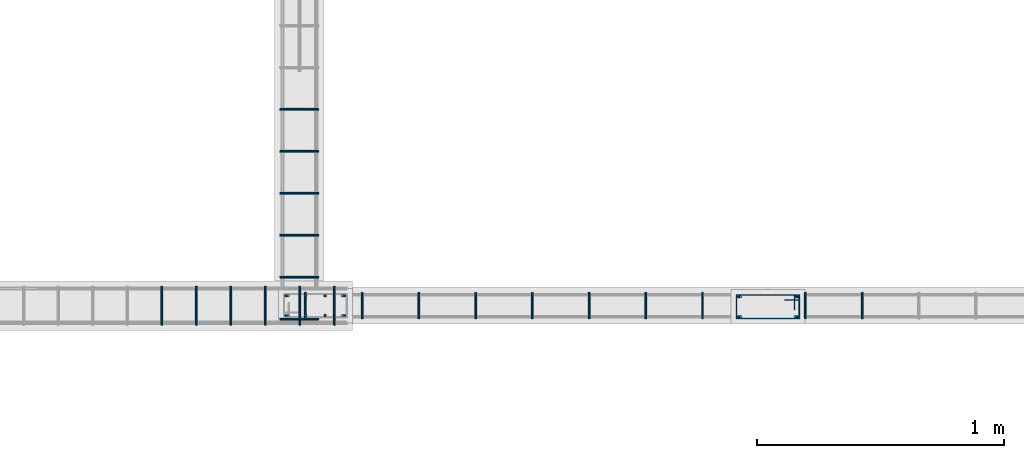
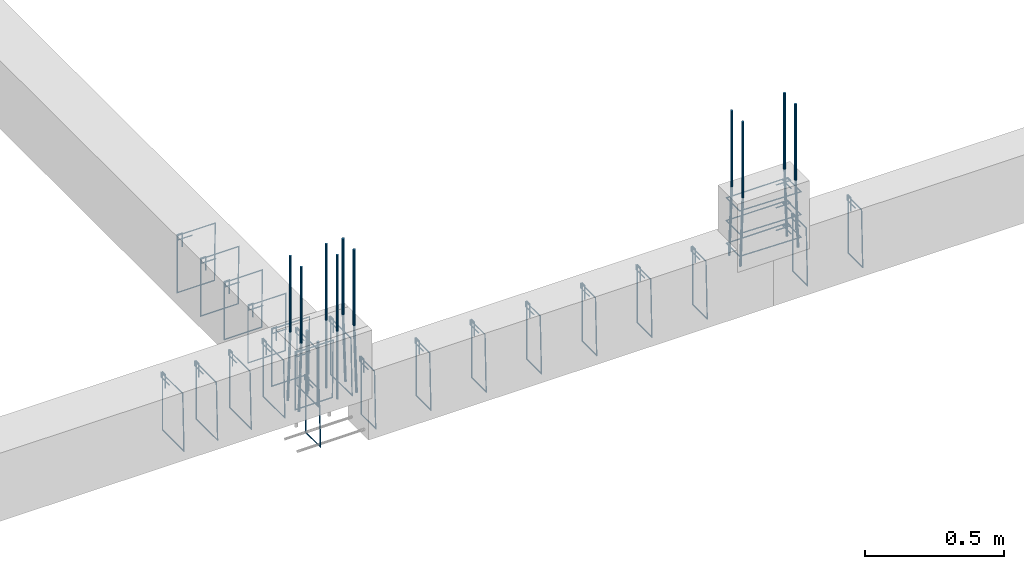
# One storey, part 92 of 150: 37 reinforcing bars.
"""IFC4 building model written with IfcOpenShell, lengths in centimetres."""

from ifc_helpers import new_model, entity, si_unit, derived_unit, frame, origin_with_axes, place, context, project, spatial, source, transform, mapped, element, save


model = new_model("IFC4")

# Units and contexts
model_context = context("Model", 3, precision=1e-05, world=origin_with_axes(), identifier="Body")
ifc_project = project(units=[si_unit("LENGTHUNIT", "METRE", prefix="CENTI"), si_unit("VOLUMEUNIT", "CUBIC_METRE"), si_unit("AREAUNIT", "SQUARE_METRE"), si_unit("POWERUNIT", "WATT"), si_unit("LUMINOUSFLUXUNIT", "LUMEN"), si_unit("ELECTRICCURRENTUNIT", "AMPERE"), si_unit("PRESSUREUNIT", "PASCAL", prefix="KILO"), si_unit("MASSUNIT", "GRAM", prefix="KILO"), si_unit("PLANEANGLEUNIT", "RADIAN"), derived_unit("VOLUMETRICFLOWRATEUNIT", [(si_unit("LENGTHUNIT", "METRE"), 3), (si_unit("TIMEUNIT", "SECOND"), -1)])], contexts=[model_context])

# Site, building, storey
site_placement = place(None, frame((-4000.0, 0.0, 0.0), z_axis=(0.0, 0.0, 1.0), x_axis=(1.0, 0.0, 0.0)))
site = spatial("IfcSite", under=ifc_project, at=site_placement, Name="PADRÃO")
building_placement = place(site_placement, frame((0.0, 0.0, -14.0)))
building = spatial("IfcBuilding", under=site, at=building_placement, Name="CRECHE PRÉ-ESCOLA TIPO 2")
placement = place(building_placement, origin_with_axes())
storey_placement = place(placement, frame((0.0, 0.0, 30.0), z_axis=(0.0, 0.0, 1.0), x_axis=(1.0, 0.0, 0.0)))
storey = spatial("IfcBuildingStorey", under=building, at=storey_placement, Name="VIGA BALDRAME", CompositionType="ELEMENT", Elevation=16.0)

# Reinforcing bars
shared_shape_1 = source(origin_with_axes(), model_context, "Body", "AdvancedSweptSolid", [
    entity("IfcSweptDiskSolid", entity("IfcCompositeCurve", [entity("IfcCompositeCurveSegment", "CONTINUOUS", True, entity("IfcPolyline", [entity("IfcCartesianPoint", [4.25, 21.75, 0.0]), entity("IfcCartesianPoint", [4.25, 27.75, 0.0])])), entity("IfcCompositeCurveSegment", "CONTINUOUS", True, entity("IfcPolyline", [entity("IfcCartesianPoint", [4.25, 27.75, 0.0]), entity("IfcCartesianPoint", [2.25, 27.75, 0.0])])), entity("IfcCompositeCurveSegment", "CONTINUOUS", True, entity("IfcPolyline", [entity("IfcCartesianPoint", [2.25, 27.75, 0.0]), entity("IfcCartesianPoint", [2.25, 2.25, 0.0])])), entity("IfcCompositeCurveSegment", "CONTINUOUS", True, entity("IfcPolyline", [entity("IfcCartesianPoint", [2.25, 2.25, 0.0]), entity("IfcCartesianPoint", [11.75, 2.25, 0.0])])), entity("IfcCompositeCurveSegment", "CONTINUOUS", True, entity("IfcPolyline", [entity("IfcCartesianPoint", [11.75, 2.25, 0.0]), entity("IfcCartesianPoint", [11.75, 27.75, -0.5])])), entity("IfcCompositeCurveSegment", "CONTINUOUS", True, entity("IfcPolyline", [entity("IfcCartesianPoint", [11.75, 27.75, -0.5]), entity("IfcCartesianPoint", [2.25, 27.75, -0.5])])), entity("IfcCompositeCurveSegment", "CONTINUOUS", True, entity("IfcPolyline", [entity("IfcCartesianPoint", [2.25, 27.75, -0.5]), entity("IfcCartesianPoint", [2.25, 25.75, -0.5])])), entity("IfcCompositeCurveSegment", "CONTINUOUS", True, entity("IfcPolyline", [entity("IfcCartesianPoint", [2.25, 25.75, -0.5]), entity("IfcCartesianPoint", [8.25, 25.75, -0.5])]))], False), 0.25),
])
for number, where, z_axis, x_axis, name in (
    (1, (3541.0, 521.52, -5.0), (0.0, 0.0, 1.0), (0.0, -1.0, 0.0), "P141 - Estribo"),
    (2, (3541.0, 521.52, -15.0), (0.0, 0.0, 1.0), (0.0, -1.0, 0.0), "P141 - Estribo"),
    (3, (3541.0, 521.52, -25.0), (0.0, 0.0, 1.0), (0.0, -1.0, 0.0), "P141 - Estribo"),
):
    element("IfcReinforcingBar", number, at=place(storey_placement, frame(where, z_axis=z_axis, x_axis=x_axis)), inside=storey, Name=name, BarLength=0.0, CrossSectionArea=1.9634954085e-05, NominalDiameter=0.5, PredefinedType="MAIN", context=model_context, shape_type="MappedRepresentation", body=[
        mapped(shared_shape_1, transform((0.0, 0.0, 0.0), scale=1.0)),
    ])
shared_shape_2 = source(origin_with_axes(), model_context, "Body", "AdvancedSweptSolid", [
    entity("IfcSweptDiskSolid", entity("IfcCompositeCurve", [entity("IfcCompositeCurveSegment", "CONTINUOUS", True, entity("IfcPolyline", [entity("IfcCartesianPoint", [2.0, -6.0, 0.0]), entity("IfcCartesianPoint", [2.0, 0.0, 0.0])])), entity("IfcCompositeCurveSegment", "CONTINUOUS", True, entity("IfcPolyline", [entity("IfcCartesianPoint", [2.0, 0.0, 0.0]), entity("IfcCartesianPoint", [0.0, 0.0, 0.0])])), entity("IfcCompositeCurveSegment", "CONTINUOUS", True, entity("IfcPolyline", [entity("IfcCartesianPoint", [0.0, 0.0, 0.0]), entity("IfcCartesianPoint", [0.0, -25.5, 0.0])])), entity("IfcCompositeCurveSegment", "CONTINUOUS", True, entity("IfcPolyline", [entity("IfcCartesianPoint", [0.0, -25.5, 0.0]), entity("IfcCartesianPoint", [15.5, -25.5, 0.0])])), entity("IfcCompositeCurveSegment", "CONTINUOUS", True, entity("IfcPolyline", [entity("IfcCartesianPoint", [15.5, -25.5, 0.0]), entity("IfcCartesianPoint", [15.5, 0.0, 0.5])])), entity("IfcCompositeCurveSegment", "CONTINUOUS", True, entity("IfcPolyline", [entity("IfcCartesianPoint", [15.5, 0.0, 0.5]), entity("IfcCartesianPoint", [0.0, 0.0, 0.5])])), entity("IfcCompositeCurveSegment", "CONTINUOUS", True, entity("IfcPolyline", [entity("IfcCartesianPoint", [0.0, 0.0, 0.5]), entity("IfcCartesianPoint", [0.0, -2.0, 0.5])])), entity("IfcCompositeCurveSegment", "CONTINUOUS", True, entity("IfcPolyline", [entity("IfcCartesianPoint", [0.0, -2.0, 0.5]), entity("IfcCartesianPoint", [6.0, -2.0, 0.5])]))], False), 0.25),
])
for number, where, z_axis, x_axis, name in (
    (4, (3358.25, 509.795, -2.25), (0.0, -1.0, 0.0), (1.0, 0.0, 0.0), "V224 - Estribo"),
    (5, (3358.25, 526.795, -2.25), (0.0, -1.0, 0.0), (1.0, 0.0, 0.0), "V224 - Estribo"),
    (6, (3358.25, 543.795, -2.25), (0.0, -1.0, 0.0), (1.0, 0.0, 0.0), "V224 - Estribo"),
    (7, (3358.25, 560.795, -2.25), (0.0, -1.0, 0.0), (1.0, 0.0, 0.0), "V224 - Estribo"),
    (8, (3358.25, 577.795, -2.25), (0.0, -1.0, 0.0), (1.0, 0.0, 0.0), "V224 - Estribo"),
    (9, (3358.25, 594.795, -2.25), (0.0, -1.0, 0.0), (1.0, 0.0, 0.0), "V224 - Estribo"),
):
    element("IfcReinforcingBar", number, at=place(storey_placement, frame(where, z_axis=z_axis, x_axis=x_axis)), inside=storey, Name=name, BarLength=0.0, CrossSectionArea=1.9634954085e-05, NominalDiameter=0.5, PredefinedType="MAIN", context=model_context, shape_type="MappedRepresentation", body=[
        mapped(shared_shape_2, transform((0.0, 0.0, 0.0), scale=1.0)),
    ])
shared_shape_3 = source(origin_with_axes(), model_context, "Body", "AdvancedSweptSolid", [
    entity("IfcSweptDiskSolid", entity("IfcCompositeCurve", [entity("IfcCompositeCurveSegment", "CONTINUOUS", True, entity("IfcPolyline", [entity("IfcCartesianPoint", [2.0, -6.0, 0.0]), entity("IfcCartesianPoint", [2.0, 0.0, 0.0])])), entity("IfcCompositeCurveSegment", "CONTINUOUS", True, entity("IfcPolyline", [entity("IfcCartesianPoint", [2.0, 0.0, 0.0]), entity("IfcCartesianPoint", [0.0, 0.0, 0.0])])), entity("IfcCompositeCurveSegment", "CONTINUOUS", True, entity("IfcPolyline", [entity("IfcCartesianPoint", [0.0, 0.0, 0.0]), entity("IfcCartesianPoint", [0.0, -25.5, 0.0])])), entity("IfcCompositeCurveSegment", "CONTINUOUS", True, entity("IfcPolyline", [entity("IfcCartesianPoint", [0.0, -25.5, 0.0]), entity("IfcCartesianPoint", [10.5, -25.5, 0.0])])), entity("IfcCompositeCurveSegment", "CONTINUOUS", True, entity("IfcPolyline", [entity("IfcCartesianPoint", [10.5, -25.5, 0.0]), entity("IfcCartesianPoint", [10.5, 0.0, 0.5])])), entity("IfcCompositeCurveSegment", "CONTINUOUS", True, entity("IfcPolyline", [entity("IfcCartesianPoint", [10.5, 0.0, 0.5]), entity("IfcCartesianPoint", [0.0, 0.0, 0.5])])), entity("IfcCompositeCurveSegment", "CONTINUOUS", True, entity("IfcPolyline", [entity("IfcCartesianPoint", [0.0, 0.0, 0.5]), entity("IfcCartesianPoint", [0.0, -2.0, 0.5])])), entity("IfcCompositeCurveSegment", "CONTINUOUS", True, entity("IfcPolyline", [entity("IfcCartesianPoint", [0.0, -2.0, 0.5]), entity("IfcCartesianPoint", [6.0, -2.0, 0.5])]))], False), 0.25),
])
for number, where, z_axis, x_axis, name in (
    (10, (3506.75, 520.26, -22.25), (-1.0, 0.0, 0.0), (0.0, -1.0, 0.0), "V153 - Estribo"),
    (11, (3483.75, 520.26, -22.25), (-1.0, 0.0, 0.0), (0.0, -1.0, 0.0), "V153 - Estribo"),
    (12, (3460.75, 520.26, -22.25), (-1.0, 0.0, 0.0), (0.0, -1.0, 0.0), "V153 - Estribo"),
    (13, (3437.75, 520.26, -22.25), (-1.0, 0.0, 0.0), (0.0, -1.0, 0.0), "V153 - Estribo"),
    (14, (3414.75, 520.26, -22.25), (-1.0, 0.0, 0.0), (0.0, -1.0, 0.0), "V153 - Estribo"),
    (15, (3391.75, 520.26, -22.25), (-1.0, 0.0, 0.0), (0.0, -1.0, 0.0), "V153 - Estribo"),
    (16, (3368.75, 520.26, -22.25), (-1.0, 0.0, 0.0), (0.0, -1.0, 0.0), "V153 - Estribo"),
    (17, (3529.75, 520.26, -22.25), (-1.0, 0.0, 0.0), (0.0, -1.0, 0.0), "V153 - Estribo"),
):
    element("IfcReinforcingBar", number, at=place(storey_placement, frame(where, z_axis=z_axis, x_axis=x_axis)), inside=storey, Name=name, BarLength=0.0, CrossSectionArea=1.9634954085e-05, NominalDiameter=0.5, PredefinedType="MAIN", context=model_context, shape_type="MappedRepresentation", body=[
        mapped(shared_shape_3, transform((0.0, 0.0, 0.0), scale=1.0)),
    ])
shared_shape_4 = source(origin_with_axes(), model_context, "Body", "AdvancedSweptSolid", [
    entity("IfcSweptDiskSolid", entity("IfcCompositeCurve", [entity("IfcCompositeCurveSegment", "CONTINUOUS", True, entity("IfcPolyline", [entity("IfcCartesianPoint", [2.0, -6.0, 0.0]), entity("IfcCartesianPoint", [2.0, 0.0, 0.0])])), entity("IfcCompositeCurveSegment", "CONTINUOUS", True, entity("IfcPolyline", [entity("IfcCartesianPoint", [2.0, 0.0, 0.0]), entity("IfcCartesianPoint", [0.0, 0.0, 0.0])])), entity("IfcCompositeCurveSegment", "CONTINUOUS", True, entity("IfcPolyline", [entity("IfcCartesianPoint", [0.0, 0.0, 0.0]), entity("IfcCartesianPoint", [0.0, -25.5, 0.0])])), entity("IfcCompositeCurveSegment", "CONTINUOUS", True, entity("IfcPolyline", [entity("IfcCartesianPoint", [0.0, -25.5, 0.0]), entity("IfcCartesianPoint", [10.5, -25.5, 0.0])])), entity("IfcCompositeCurveSegment", "CONTINUOUS", True, entity("IfcPolyline", [entity("IfcCartesianPoint", [10.5, -25.5, 0.0]), entity("IfcCartesianPoint", [10.5, 0.0, 0.5])])), entity("IfcCompositeCurveSegment", "CONTINUOUS", True, entity("IfcPolyline", [entity("IfcCartesianPoint", [10.5, 0.0, 0.5]), entity("IfcCartesianPoint", [0.0, 0.0, 0.5])])), entity("IfcCompositeCurveSegment", "CONTINUOUS", True, entity("IfcPolyline", [entity("IfcCartesianPoint", [0.0, 0.0, 0.5]), entity("IfcCartesianPoint", [0.0, -2.0, 0.5])])), entity("IfcCompositeCurveSegment", "CONTINUOUS", True, entity("IfcPolyline", [entity("IfcCartesianPoint", [0.0, -2.0, 0.5]), entity("IfcCartesianPoint", [6.0, -2.0, 0.5])]))], False), 0.25),
])
for number, where, z_axis, x_axis, name in (
    (18, (3594.5, 520.26, -22.25), (-1.0, 0.0, 0.0), (0.0, -1.0, 0.0), "V153 - Estribo"),
    (19, (3571.5, 520.26, -22.25), (-1.0, 0.0, 0.0), (0.0, -1.0, 0.0), "V153 - Estribo"),
):
    element("IfcReinforcingBar", number, at=place(storey_placement, frame(where, z_axis=z_axis, x_axis=x_axis)), inside=storey, Name=name, BarLength=0.0, CrossSectionArea=1.9634954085e-05, NominalDiameter=0.5, PredefinedType="MAIN", context=model_context, shape_type="MappedRepresentation", body=[
        mapped(shared_shape_4, transform((0.0, 0.0, 0.0), scale=1.0)),
    ])
shared_shape_5 = source(origin_with_axes(), model_context, "Body", "AdvancedSweptSolid", [
    entity("IfcSweptDiskSolid", entity("IfcCompositeCurve", [entity("IfcCompositeCurveSegment", "CONTINUOUS", True, entity("IfcPolyline", [entity("IfcCartesianPoint", [2.0, -6.0, 0.0]), entity("IfcCartesianPoint", [2.0, 0.0, 0.0])])), entity("IfcCompositeCurveSegment", "CONTINUOUS", True, entity("IfcPolyline", [entity("IfcCartesianPoint", [2.0, 0.0, 0.0]), entity("IfcCartesianPoint", [0.0, 0.0, 0.0])])), entity("IfcCompositeCurveSegment", "CONTINUOUS", True, entity("IfcPolyline", [entity("IfcCartesianPoint", [0.0, 0.0, 0.0]), entity("IfcCartesianPoint", [0.0, -25.5, 0.0])])), entity("IfcCompositeCurveSegment", "CONTINUOUS", True, entity("IfcPolyline", [entity("IfcCartesianPoint", [0.0, -25.5, 0.0]), entity("IfcCartesianPoint", [15.5, -25.5, 0.0])])), entity("IfcCompositeCurveSegment", "CONTINUOUS", True, entity("IfcPolyline", [entity("IfcCartesianPoint", [15.5, -25.5, 0.0]), entity("IfcCartesianPoint", [15.5, 0.0, 0.5])])), entity("IfcCompositeCurveSegment", "CONTINUOUS", True, entity("IfcPolyline", [entity("IfcCartesianPoint", [15.5, 0.0, 0.5]), entity("IfcCartesianPoint", [0.0, 0.0, 0.5])])), entity("IfcCompositeCurveSegment", "CONTINUOUS", True, entity("IfcPolyline", [entity("IfcCartesianPoint", [0.0, 0.0, 0.5]), entity("IfcCartesianPoint", [0.0, -2.0, 0.5])])), entity("IfcCompositeCurveSegment", "CONTINUOUS", True, entity("IfcPolyline", [entity("IfcCartesianPoint", [0.0, -2.0, 0.5]), entity("IfcCartesianPoint", [6.0, -2.0, 0.5])]))], False), 0.25),
])
for number, where, z_axis, x_axis, name in (
    (20, (3310.5, 522.76, -2.25), (-1.0, 0.0, 0.0), (0.0, -1.0, 0.0), "V152 - Estribo"),
    (21, (3324.5, 522.76, -2.25), (-1.0, 0.0, 0.0), (0.0, -1.0, 0.0), "V152 - Estribo"),
    (22, (3338.5, 522.76, -2.25), (-1.0, 0.0, 0.0), (0.0, -1.0, 0.0), "V152 - Estribo"),
    (23, (3352.5, 522.76, -2.25), (-1.0, 0.0, 0.0), (0.0, -1.0, 0.0), "V152 - Estribo"),
    (24, (3366.5, 522.76, -2.25), (-1.0, 0.0, 0.0), (0.0, -1.0, 0.0), "V152 - Estribo"),
    (25, (3380.5, 522.76, -2.25), (-1.0, 0.0, 0.0), (0.0, -1.0, 0.0), "V152 - Estribo"),
):
    element("IfcReinforcingBar", number, at=place(storey_placement, frame(where, z_axis=z_axis, x_axis=x_axis)), inside=storey, Name=name, BarLength=0.0, CrossSectionArea=1.9634954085e-05, NominalDiameter=0.5, PredefinedType="MAIN", context=model_context, shape_type="MappedRepresentation", body=[
        mapped(shared_shape_5, transform((0.0, 0.0, 0.0), scale=1.0)),
    ])
for number, where, z_axis, x_axis, name in (
    (26, (3368.5, 519.01, -2.0), (0.0, 0.0, 1.0), (1.0, 0.0, 0.0), "P140 - Longitudinal"),
    (27, (3368.5, 511.01, -2.0), (0.0, 0.0, 1.0), (1.0, 0.0, 0.0), "P140 - Longitudinal"),
):
    element("IfcReinforcingBar", number, at=place(storey_placement, frame(where, z_axis=z_axis, x_axis=x_axis)), inside=storey, Name=name, BarLength=0.0, CrossSectionArea=7.853981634e-05, NominalDiameter=1.0, PredefinedType="MAIN", context=model_context, shape_type="AdvancedSweptSolid", body=[
        entity("IfcSweptDiskSolid", entity("IfcCompositeCurve", [entity("IfcCompositeCurveSegment", "CONTINUOUS", True, entity("IfcPolyline", [entity("IfcCartesianPoint", [0.0, 0.0, -28.0]), entity("IfcCartesianPoint", [0.0, 0.0, 0.0])]))], False), 0.5),
    ])
reinforcing_bar_1_placement = place(storey_placement, frame((3376.5, 511.01, 33.3573001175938), z_axis=(0.0, 0.0, 1.0), x_axis=(1.0, 0.0, 0.0)))
element("IfcReinforcingBar", 28, at=reinforcing_bar_1_placement, inside=storey, Name="P140 - Longitudinal", BarLength=0.0, CrossSectionArea=7.853981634e-05, NominalDiameter=1.0, PredefinedType="MAIN", context=model_context, shape_type="AdvancedSweptSolid", body=[
    entity("IfcSweptDiskSolid", entity("IfcCompositeCurve", [entity("IfcCompositeCurveSegment", "CONTINUOUS", True, entity("IfcPolyline", [entity("IfcCartesianPoint", [0.0, 0.0, -63.3573001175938]), entity("IfcCartesianPoint", [0.0, 0.0, 0.0])]))], False), 0.5),
])
reinforcing_bar_2_placement = place(storey_placement, frame((3383.99986122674, 511.01, 33.3573001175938), z_axis=(0.0, 0.0, 1.0), x_axis=(1.0, 0.0, 0.0)))
element("IfcReinforcingBar", 29, at=reinforcing_bar_2_placement, inside=storey, Name="P140 - Longitudinal", BarLength=0.0, CrossSectionArea=7.853981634e-05, NominalDiameter=1.0, PredefinedType="MAIN", context=model_context, shape_type="AdvancedSweptSolid", body=[
    entity("IfcSweptDiskSolid", entity("IfcCompositeCurve", [entity("IfcCompositeCurveSegment", "CONTINUOUS", True, entity("IfcPolyline", [entity("IfcCartesianPoint", [0.500138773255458, 0.0, -63.3573001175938]), entity("IfcCartesianPoint", [-0.499861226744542, 0.0, -33.3573001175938])])), entity("IfcCompositeCurveSegment", "CONTINUOUS", True, entity("IfcPolyline", [entity("IfcCartesianPoint", [-0.499861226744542, 0.0, -33.3573001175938]), entity("IfcCartesianPoint", [-0.499861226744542, 0.0, 0.0])]))], False), 0.5),
])
reinforcing_bar_3_placement = place(storey_placement, frame((3376.5, 519.01, 33.3573001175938), z_axis=(0.0, 0.0, 1.0), x_axis=(1.0, 0.0, 0.0)))
element("IfcReinforcingBar", 30, at=reinforcing_bar_3_placement, inside=storey, Name="P140 - Longitudinal", BarLength=0.0, CrossSectionArea=7.853981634e-05, NominalDiameter=1.0, PredefinedType="MAIN", context=model_context, shape_type="AdvancedSweptSolid", body=[
    entity("IfcSweptDiskSolid", entity("IfcCompositeCurve", [entity("IfcCompositeCurveSegment", "CONTINUOUS", True, entity("IfcPolyline", [entity("IfcCartesianPoint", [0.0, 0.0, -63.3573001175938]), entity("IfcCartesianPoint", [0.0, 0.0, 0.0])]))], False), 0.5),
])
for number, where, z_axis, x_axis, name in (
    (31, (3361.00013877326, 511.01, 33.3573001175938), (0.0, 0.0, 1.0), (1.0, 0.0, 0.0), "P140 - Longitudinal"),
    (32, (3361.00013877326, 519.01, 33.3573001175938), (0.0, 0.0, 1.0), (1.0, 0.0, 0.0), "P140 - Longitudinal"),
):
    element("IfcReinforcingBar", number, at=place(storey_placement, frame(where, z_axis=z_axis, x_axis=x_axis)), inside=storey, Name=name, BarLength=0.0, CrossSectionArea=7.853981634e-05, NominalDiameter=1.0, PredefinedType="MAIN", context=model_context, shape_type="AdvancedSweptSolid", body=[
        entity("IfcSweptDiskSolid", entity("IfcCompositeCurve", [entity("IfcCompositeCurveSegment", "CONTINUOUS", True, entity("IfcPolyline", [entity("IfcCartesianPoint", [-0.500138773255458, 0.0, -63.3573001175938]), entity("IfcCartesianPoint", [0.499861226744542, 0.0, -33.3573001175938])])), entity("IfcCompositeCurveSegment", "CONTINUOUS", True, entity("IfcPolyline", [entity("IfcCartesianPoint", [0.499861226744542, 0.0, -33.3573001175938]), entity("IfcCartesianPoint", [0.499861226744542, 0.0, 0.0])]))], False), 0.5),
    ])
reinforcing_bar_4_placement = place(storey_placement, frame((3383.99986122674, 519.01, 33.3573001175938), z_axis=(0.0, 0.0, 1.0), x_axis=(1.0, 0.0, 0.0)))
element("IfcReinforcingBar", 33, at=reinforcing_bar_4_placement, inside=storey, Name="P140 - Longitudinal", BarLength=0.0, CrossSectionArea=7.853981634e-05, NominalDiameter=1.0, PredefinedType="MAIN", context=model_context, shape_type="AdvancedSweptSolid", body=[
    entity("IfcSweptDiskSolid", entity("IfcCompositeCurve", [entity("IfcCompositeCurveSegment", "CONTINUOUS", True, entity("IfcPolyline", [entity("IfcCartesianPoint", [0.500138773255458, 0.0, -63.3573001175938]), entity("IfcCartesianPoint", [-0.499861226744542, 0.0, -33.3573001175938])])), entity("IfcCompositeCurveSegment", "CONTINUOUS", True, entity("IfcPolyline", [entity("IfcCartesianPoint", [-0.499861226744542, 0.0, -33.3573001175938]), entity("IfcCartesianPoint", [-0.499861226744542, 0.0, 0.0])]))], False), 0.5),
])
for number, where, z_axis, x_axis, name in (
    (34, (3544.50013877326, 518.52, 33.3573001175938), (0.0, 0.0, 1.0), (1.0, 0.0, 0.0), "P141 - Longitudinal"),
    (35, (3544.50013877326, 510.52, 33.3573001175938), (0.0, 0.0, 1.0), (1.0, 0.0, 0.0), "P141 - Longitudinal"),
):
    element("IfcReinforcingBar", number, at=place(storey_placement, frame(where, z_axis=z_axis, x_axis=x_axis)), inside=storey, Name=name, BarLength=0.0, CrossSectionArea=7.853981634e-05, NominalDiameter=1.0, PredefinedType="MAIN", context=model_context, shape_type="AdvancedSweptSolid", body=[
        entity("IfcSweptDiskSolid", entity("IfcCompositeCurve", [entity("IfcCompositeCurveSegment", "CONTINUOUS", True, entity("IfcPolyline", [entity("IfcCartesianPoint", [-0.500138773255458, 0.0, -63.3573001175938]), entity("IfcCartesianPoint", [0.499861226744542, 0.0, -33.3573001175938])])), entity("IfcCompositeCurveSegment", "CONTINUOUS", True, entity("IfcPolyline", [entity("IfcCartesianPoint", [0.499861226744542, 0.0, -33.3573001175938]), entity("IfcCartesianPoint", [0.499861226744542, 0.0, 0.0])]))], False), 0.5),
    ])
for number, where, z_axis, x_axis, name in (
    (36, (3567.49986122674, 510.52, 33.3573001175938), (0.0, 0.0, 1.0), (1.0, 0.0, 0.0), "P141 - Longitudinal"),
    (37, (3567.49986122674, 518.52, 33.3573001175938), (0.0, 0.0, 1.0), (1.0, 0.0, 0.0), "P141 - Longitudinal"),
):
    element("IfcReinforcingBar", number, at=place(storey_placement, frame(where, z_axis=z_axis, x_axis=x_axis)), inside=storey, Name=name, BarLength=0.0, CrossSectionArea=7.853981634e-05, NominalDiameter=1.0, PredefinedType="MAIN", context=model_context, shape_type="AdvancedSweptSolid", body=[
        entity("IfcSweptDiskSolid", entity("IfcCompositeCurve", [entity("IfcCompositeCurveSegment", "CONTINUOUS", True, entity("IfcPolyline", [entity("IfcCartesianPoint", [0.500138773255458, 0.0, -63.3573001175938]), entity("IfcCartesianPoint", [-0.499861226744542, 0.0, -33.3573001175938])])), entity("IfcCompositeCurveSegment", "CONTINUOUS", True, entity("IfcPolyline", [entity("IfcCartesianPoint", [-0.499861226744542, 0.0, -33.3573001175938]), entity("IfcCartesianPoint", [-0.499861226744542, 0.0, 0.0])]))], False), 0.5),
    ])

save(model, "model.ifc")
